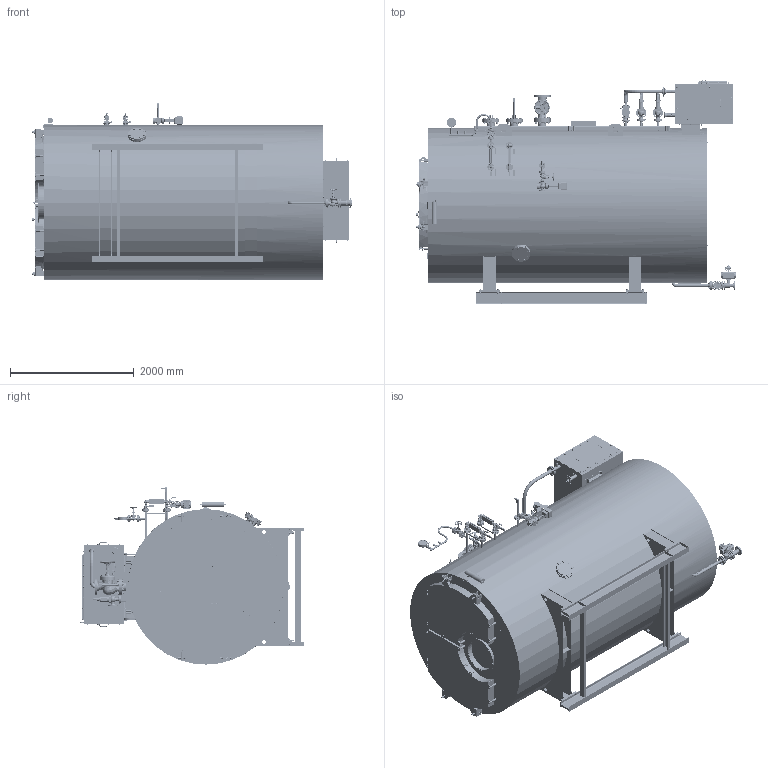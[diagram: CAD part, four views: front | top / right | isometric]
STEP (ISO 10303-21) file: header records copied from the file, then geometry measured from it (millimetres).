
FILE_DESCRIPTION(('STEP AP214'), '1');
FILE_NAME('ÈÊÇ.360.050.00.000-01 Êîòåë IGNIS P-5000 16áàð ñ îáâÿçêîé óïð. (07.25)', '', ('UNSPECIFIED'), ('UNSPECIFIED'), 'ASCON STEP Converter 1.6', 'ASCON Math Kernel', '');
FILE_SCHEMA(('AUTOMOTIVE_DESIGN { 1 0 10303 214 3 1 1}'));
Length unit declared in the file: millimetre
Bounding box: 5172 x 3627.27 x 2862 mm (x, y, z)
Volume: 22609400051.2 mm3; surface area: 100142434 mm2
Topology: 108 solids, 136 shells, 15188 faces, 36486 edges, 23034 vertices
Faces by surface type: plane 8280, cylinder 3925, cone 1737, bspline 697, torus 366, sphere 137, extrusion 46
Full cylindrical faces by diameter (mm): 1.425 x1, 3 x5, 3.014 x1, 3.6 x4, 4 x4, 4.5 x2, 5 x24, 5.5 x1, 5.966 x1, 6 x15, 6.5 x6, 6.647 x4, 8 x15, 8.376 x16, 8.4 x6, 9 x7, 10 x103, 10.106 x16, 10.492 x2, 11 x26, 11.5 x2, 11.63 x6, 12 x140, 12.5 x8, 13 x15, 13.5 x30, 14 x71, 14.2 x1, 14.376 x8, 15.5 x4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
Entity records: 871951 total; most frequent: CARTESIAN_POINT 417499, ORIENTED_EDGE 66656, DIRECTION 64636, EDGE_CURVE 33345, AXIS2_PLACEMENT_3D 24649, VERTEX_POINT 22943, EDGE_LOOP 20753, FACE_BOUND 16130
